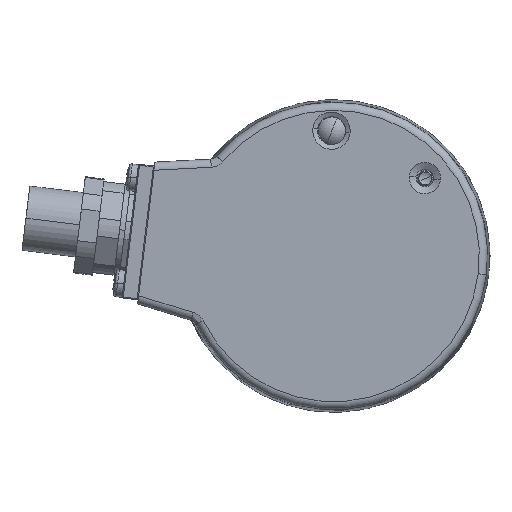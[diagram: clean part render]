
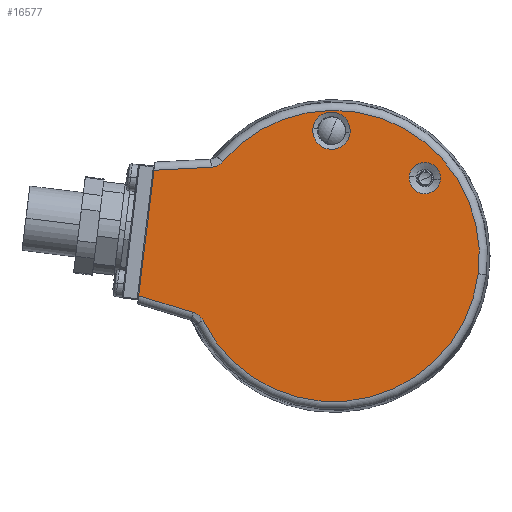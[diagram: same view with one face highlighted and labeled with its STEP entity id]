
A CAD part, left-side view. The second image highlights one B-rep face of the part: STEP entity #16577.
In plain terms, the highlighted planar face has unit normal (-1, 0, 0).
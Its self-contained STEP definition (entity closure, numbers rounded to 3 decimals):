
#207 = B_SPLINE_CURVE_WITH_KNOTS ( 'NONE', 3,
 ( #1911, #25287, #3913, #17562, #5904, #19484, #7950, #21458, #9924, #23434 ),
 .UNSPECIFIED., .F., .F.,
 ( 4, 2, 2, 2, 4 ),
 ( 0., 0.001, 0.001, 0.002, 0.002 ),
 .UNSPECIFIED. ) ;
#253 = CARTESIAN_POINT ( 'NONE',  ( -30.5, 25.819, -10.538 ) ) ;
#380 = CARTESIAN_POINT ( 'NONE',  ( -30.5, -3.034, 22.824 ) ) ;
#479 = VERTEX_POINT ( 'NONE', #20212 ) ;
#809 = ORIENTED_EDGE ( 'NONE', *, *, #15624, .T. ) ;
#968 = VECTOR ( 'NONE', #2059, 1000. ) ;
#1326 = CARTESIAN_POINT ( 'NONE',  ( -30.5, 36.168, -7.374 ) ) ;
#1566 = FACE_BOUND ( 'NONE', #14392, .T. ) ;
#1911 = CARTESIAN_POINT ( 'NONE',  ( -30.5, 22.708, 16.461 ) ) ;
#2047 = CARTESIAN_POINT ( 'NONE',  ( -30.5, -14.042, 14.804 ) ) ;
#2059 = DIRECTION ( 'NONE',  ( 0., 0.999, -0.052 ) ) ;
#2106 = VECTOR ( 'NONE', #25008, 1000. ) ;
#2197 = ORIENTED_EDGE ( 'NONE', *, *, #2380, .T. ) ;
#2380 = EDGE_CURVE ( 'NONE', #12379, #20273, #10247, .T. ) ;
#2611 = VERTEX_POINT ( 'NONE', #1326 ) ;
#2623 = DIRECTION ( 'NONE',  ( 1., 0., 0. ) ) ;
#2741 = DIRECTION ( 'NONE',  ( 1., 0., 0. ) ) ;
#2865 = CARTESIAN_POINT ( 'NONE',  ( -30.5, 20.579, 17.512 ) ) ;
#2868 = CARTESIAN_POINT ( 'NONE',  ( -30.5, 0., 0. ) ) ;
#3159 = CARTESIAN_POINT ( 'NONE',  ( -30.5, 24.205, -12.014 ) ) ;
#3496 = CARTESIAN_POINT ( 'NONE',  ( -30.5, -19.796, 14.097 ) ) ;
#3913 = CARTESIAN_POINT ( 'NONE',  ( -30.5, 22.299, 16.503 ) ) ;
#4147 = ORIENTED_EDGE ( 'NONE', *, *, #22182, .T. ) ;
#4267 = CARTESIAN_POINT ( 'NONE',  ( -30.5, 26.015, -10.478 ) ) ;
#4285 = EDGE_CURVE ( 'NONE', #20273, #12379, #6443, .T. ) ;
#4398 = DIRECTION ( 'NONE',  ( 0., -0.993, -0.122 ) ) ;
#4873 = PLANE ( 'NONE',  #17407 ) ;
#5176 = CARTESIAN_POINT ( 'NONE',  ( -30.5, 3.846, 23.669 ) ) ;
#5288 = CARTESIAN_POINT ( 'NONE',  ( -30.5, 0., 0. ) ) ;
#5512 = EDGE_CURVE ( 'NONE', #15033, #15676, #22162, .T. ) ;
#5904 = CARTESIAN_POINT ( 'NONE',  ( -30.5, 21.716, 16.677 ) ) ;
#6443 = CIRCLE ( 'NONE', #23677, 2.899 ) ;
#6557 = DIRECTION ( 'NONE',  ( 1., 0., 0. ) ) ;
#6777 = CARTESIAN_POINT ( 'NONE',  ( -30.5, -16.919, 14.45 ) ) ;
#6907 = FACE_BOUND ( 'NONE', #14803, .T. ) ;
#6934 = DIRECTION ( 'NONE',  ( 0., -0.993, -0.122 ) ) ;
#7218 = DIRECTION ( 'NONE',  ( 0., -0.993, -0.122 ) ) ;
#7357 = DIRECTION ( 'NONE',  ( 0., -0.993, -0.122 ) ) ;
#7612 = DIRECTION ( 'NONE',  ( 0., -0.122, 0.993 ) ) ;
#7653 = B_SPLINE_CURVE_WITH_KNOTS ( 'NONE', 3,
 ( #17753, #13978, #19776, #8239, #21757, #10206, #23713, #12163, #253, #14048 ),
 .UNSPECIFIED., .F., .F.,
 ( 4, 2, 2, 2, 4 ),
 ( 0., 0.001, 0.001, 0.002, 0.002 ),
 .UNSPECIFIED. ) ;
#7933 = EDGE_CURVE ( 'NONE', #25071, #21505, #11638, .T. ) ;
#7950 = CARTESIAN_POINT ( 'NONE',  ( -30.5, 21.178, 16.967 ) ) ;
#8064 = LINE ( 'NONE', #19112, #2106 ) ;
#8239 = CARTESIAN_POINT ( 'NONE',  ( -30.5, 24.657, -11.336 ) ) ;
#8896 = ORIENTED_EDGE ( 'NONE', *, *, #5512, .T. ) ;
#9053 = AXIS2_PLACEMENT_3D ( 'NONE', #5288, #18859, #7357 ) ;
#9838 = AXIS2_PLACEMENT_3D ( 'NONE', #14703, #14665, #14613 ) ;
#9924 = CARTESIAN_POINT ( 'NONE',  ( -30.5, 20.712, 17.356 ) ) ;
#10206 = CARTESIAN_POINT ( 'NONE',  ( -30.5, 25.107, -10.927 ) ) ;
#10247 = CIRCLE ( 'NONE', #17120, 2.899 ) ;
#10262 = DIRECTION ( 'NONE',  ( 1., 0., 0. ) ) ;
#10622 = ORIENTED_EDGE ( 'NONE', *, *, #25244, .F. ) ;
#10719 = EDGE_CURVE ( 'NONE', #479, #21505, #207, .T. ) ;
#10794 = VERTEX_POINT ( 'NONE', #4267 ) ;
#11412 = CARTESIAN_POINT ( 'NONE',  ( -30.5, -26.821, -3.293 ) ) ;
#11493 = ORIENTED_EDGE ( 'NONE', *, *, #4285, .T. ) ;
#11638 = CIRCLE ( 'NONE', #9838, 27.022 ) ;
#11917 = CARTESIAN_POINT ( 'NONE',  ( -30.5, -16.919, 14.45 ) ) ;
#12085 = DIRECTION ( 'NONE',  ( 1., 0., 0. ) ) ;
#12086 = ORIENTED_EDGE ( 'NONE', *, *, #16770, .F. ) ;
#12091 = FACE_OUTER_BOUND ( 'NONE', #12383, .T. ) ;
#12163 = CARTESIAN_POINT ( 'NONE',  ( -30.5, 25.632, -10.617 ) ) ;
#12178 = CARTESIAN_POINT ( 'NONE',  ( -30.5, 0.406, 23.246 ) ) ;
#12325 = DIRECTION ( 'NONE',  ( 0., -0.993, -0.122 ) ) ;
#12379 = VERTEX_POINT ( 'NONE', #3496 ) ;
#12383 = EDGE_LOOP ( 'NONE', ( #24569, #809, #12086, #15796, #10622, #4147, #17364 ) ) ;
#12982 = LINE ( 'NONE', #15457, #23255 ) ;
#13978 = CARTESIAN_POINT ( 'NONE',  ( -30.5, 24.296, -11.83 ) ) ;
#14048 = CARTESIAN_POINT ( 'NONE',  ( -30.5, 26.015, -10.478 ) ) ;
#14392 = EDGE_LOOP ( 'NONE', ( #8896, #17827 ) ) ;
#14504 = CARTESIAN_POINT ( 'NONE',  ( -30.5, 0.406, 23.246 ) ) ;
#14613 = DIRECTION ( 'NONE',  ( 0., -0.993, -0.122 ) ) ;
#14665 = DIRECTION ( 'NONE',  ( -1., 0., 0. ) ) ;
#14703 = CARTESIAN_POINT ( 'NONE',  ( -30.5, 0., 0. ) ) ;
#14803 = EDGE_LOOP ( 'NONE', ( #11493, #2197 ) ) ;
#15033 = VERTEX_POINT ( 'NONE', #5176 ) ;
#15457 = CARTESIAN_POINT ( 'NONE',  ( -30.5, 36.354, -8.886 ) ) ;
#15624 = EDGE_CURVE ( 'NONE', #479, #17991, #21788, .T. ) ;
#15676 = VERTEX_POINT ( 'NONE', #380 ) ;
#15785 = CARTESIAN_POINT ( 'NONE',  ( -30.5, 33.046, 15.919 ) ) ;
#15796 = ORIENTED_EDGE ( 'NONE', *, *, #24612, .T. ) ;
#16455 = DIRECTION ( 'NONE',  ( 0., -0.993, -0.122 ) ) ;
#16577 = ADVANCED_FACE ( 'NONE', ( #1566, #6907, #12091 ), #4873, .F. ) ;
#16770 = EDGE_CURVE ( 'NONE', #2611, #17991, #12982, .T. ) ;
#17029 = EDGE_CURVE ( 'NONE', #15676, #15033, #22305, .T. ) ;
#17120 = AXIS2_PLACEMENT_3D ( 'NONE', #6777, #2623, #4398 ) ;
#17329 = AXIS2_PLACEMENT_3D ( 'NONE', #12178, #12085, #12325 ) ;
#17364 = ORIENTED_EDGE ( 'NONE', *, *, #7933, .T. ) ;
#17407 = AXIS2_PLACEMENT_3D ( 'NONE', #2868, #6557, #6934 ) ;
#17562 = CARTESIAN_POINT ( 'NONE',  ( -30.5, 21.906, 16.606 ) ) ;
#17753 = CARTESIAN_POINT ( 'NONE',  ( -30.5, 24.205, -12.014 ) ) ;
#17827 = ORIENTED_EDGE ( 'NONE', *, *, #17029, .T. ) ;
#17991 = VERTEX_POINT ( 'NONE', #23960 ) ;
#18859 = DIRECTION ( 'NONE',  ( -1., 0., 0. ) ) ;
#19010 = AXIS2_PLACEMENT_3D ( 'NONE', #14504, #2741, #16455 ) ;
#19112 = CARTESIAN_POINT ( 'NONE',  ( -30.5, 25.362, -10.678 ) ) ;
#19484 = CARTESIAN_POINT ( 'NONE',  ( -30.5, 21.352, 16.857 ) ) ;
#19776 = CARTESIAN_POINT ( 'NONE',  ( -30.5, 24.406, -11.656 ) ) ;
#20212 = CARTESIAN_POINT ( 'NONE',  ( -30.5, 22.708, 16.461 ) ) ;
#20273 = VERTEX_POINT ( 'NONE', #2047 ) ;
#21458 = CARTESIAN_POINT ( 'NONE',  ( -30.5, 20.859, 17.216 ) ) ;
#21505 = VERTEX_POINT ( 'NONE', #2865 ) ;
#21757 = CARTESIAN_POINT ( 'NONE',  ( -30.5, 24.797, -11.19 ) ) ;
#21788 = LINE ( 'NONE', #15785, #968 ) ;
#22162 = CIRCLE ( 'NONE', #17329, 3.466 ) ;
#22182 = EDGE_CURVE ( 'NONE', #22627, #25071, #25123, .T. ) ;
#22305 = CIRCLE ( 'NONE', #19010, 3.466 ) ;
#22627 = VERTEX_POINT ( 'NONE', #3159 ) ;
#23255 = VECTOR ( 'NONE', #7612, 1000. ) ;
#23434 = CARTESIAN_POINT ( 'NONE',  ( -30.5, 20.579, 17.512 ) ) ;
#23677 = AXIS2_PLACEMENT_3D ( 'NONE', #11917, #10262, #7218 ) ;
#23713 = CARTESIAN_POINT ( 'NONE',  ( -30.5, 25.277, -10.811 ) ) ;
#23960 = CARTESIAN_POINT ( 'NONE',  ( -30.5, 33.31, 15.905 ) ) ;
#24569 = ORIENTED_EDGE ( 'NONE', *, *, #10719, .F. ) ;
#24612 = EDGE_CURVE ( 'NONE', #2611, #10794, #8064, .T. ) ;
#25008 = DIRECTION ( 'NONE',  ( 0., -0.956, -0.292 ) ) ;
#25071 = VERTEX_POINT ( 'NONE', #11412 ) ;
#25123 = CIRCLE ( 'NONE', #9053, 27.022 ) ;
#25244 = EDGE_CURVE ( 'NONE', #22627, #10794, #7653, .T. ) ;
#25287 = CARTESIAN_POINT ( 'NONE',  ( -30.5, 22.503, 16.471 ) ) ;
